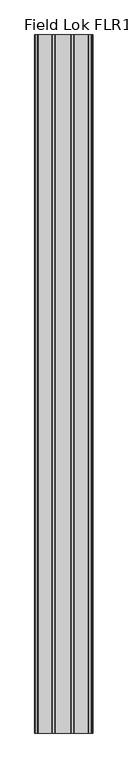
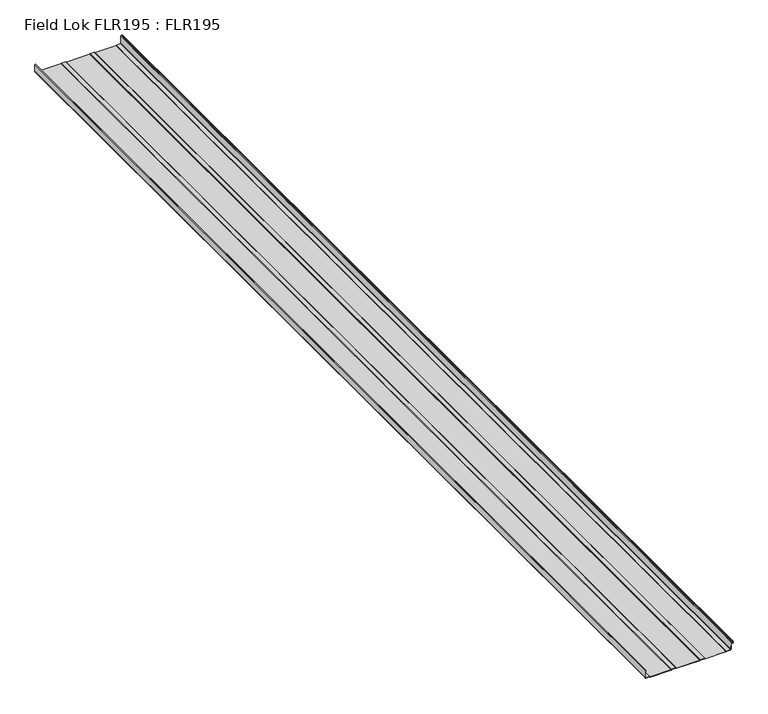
"""IFC4 building model written with IfcOpenShell, lengths in millimetres: proxy geometry, Field Lok FLR195 : FLR195."""

import ifcopenshell
import ifcopenshell.guid

model = None  # the IFC model being written
_history = None  # IfcOwnerHistory: only IFC2X3 demands one
_inside = {}  # id of a spatial element -> (the spatial element, [elements in it])
_under = {}  # id of a project, library or spatial element -> (it, [spatial elements below it])
_declared = {}  # id of a project -> (the project, [libraries it declares])
_typed = {}  # id of a type object -> (the type object, [elements of that type])
_made_of = {}  # id of a material, layer set ... -> (it, [elements and type objects made of it])


def new_model(schema):
    """Start an empty IFC model of exactly this schema.

    Asked for "IFC4X3", IfcOpenShell would pick the latest addendum, in which some entities
    have other attributes; the version numbers below select the first issue.
    IFC2X3 requires an IfcOwnerHistory on every rooted entity: one is made here for all.
    """
    global model, _history
    if schema == "IFC4X3":
        model = ifcopenshell.file(schema_version=(4, 3, 0, 0))
    else:
        model = ifcopenshell.file(schema=schema)
    _inside.clear()
    _under.clear()
    _declared.clear()
    _typed.clear()
    _made_of.clear()
    _history = None
    if model.schema == "IFC2X3":
        org = make("IfcOrganization", Name="unknown")
        user = make(
            "IfcPersonAndOrganization",
            ThePerson=make("IfcPerson", FamilyName="unknown"),
            TheOrganization=org,
        )
        app = make(
            "IfcApplication",
            ApplicationDeveloper=org,
            Version="unknown",
            ApplicationFullName="unknown",
            ApplicationIdentifier="unknown",
        )
        _history = make(
            "IfcOwnerHistory",
            OwningUser=user,
            OwningApplication=app,
            ChangeAction="ADDED",
            CreationDate=0,
        )
    return model


def make(cls, **values):
    """One entity of the class cls with the attributes given. An attribute that is None is left unset."""
    return model.create_entity(
        cls, **{name: value for name, value in values.items() if value is not None}
    )


def rooted(cls, **values):
    """An entity with a GlobalId (a new one), such as an element, a storey or a relation."""
    return make(cls, GlobalId=ifcopenshell.guid.new(), OwnerHistory=_history, **values)


def si_unit(unit_type, name, prefix=None):
    """IfcSIUnit, for example si_unit("LENGTHUNIT", "METRE", prefix="MILLI")."""
    return make("IfcSIUnit", UnitType=unit_type, Prefix=prefix, Name=name)


def assignment(units):
    """IfcUnitAssignment: the units of a project."""
    return None if units is None else make("IfcUnitAssignment", Units=units)


def point(xyz):
    """IfcCartesianPoint."""
    return None if xyz is None else make("IfcCartesianPoint", Coordinates=xyz)


def direction(xyz):
    """IfcDirection."""
    return None if xyz is None else make("IfcDirection", DirectionRatios=xyz)


def frame(location, z_axis=None, x_axis=None):
    """IfcAxis2Placement3D, a coordinate frame: its origin and axes. An axis left out is left unset."""
    return make(
        "IfcAxis2Placement3D",
        Location=point(location),
        Axis=direction(z_axis),
        RefDirection=direction(x_axis),
    )


def frame_2d(location, x_axis=None):
    """IfcAxis2Placement2D, a coordinate frame in the plane: its origin and x axis."""
    return make(
        "IfcAxis2Placement2D", Location=point(location), RefDirection=direction(x_axis)
    )


def origin():
    """The frame at (0, 0, 0) with its axes left unset."""
    return frame((0.0, 0.0, 0.0))


def place(relative_to, where):
    """IfcLocalPlacement: puts the frame where relative to a parent placement (None: the world)."""
    return make(
        "IfcLocalPlacement", PlacementRelTo=relative_to, RelativePlacement=where
    )


def context(
    kind, dimensions, precision=None, world=None, true_north=None, identifier=None
):
    """IfcGeometricRepresentationContext, for example the 3D "Model" context."""
    return make(
        "IfcGeometricRepresentationContext",
        ContextIdentifier=identifier,
        ContextType=kind,
        CoordinateSpaceDimension=dimensions,
        Precision=precision,
        WorldCoordinateSystem=world,
        TrueNorth=true_north,
    )


def project(units=None, contexts=None):
    """IfcProject with its units and contexts."""
    return rooted(
        "IfcProject",
        Name="project",
        RepresentationContexts=contexts,
        UnitsInContext=assignment(units),
    )


def spatial(cls, under=None, at=None, **own):
    """A site, building, storey or space (cls), placed at a placement, below another one or the project."""
    s = rooted(cls, ObjectPlacement=at, **own)
    if under is not None:
        _under.setdefault(under.id(), (under, []))[1].append(s)
    return s


def polyline(points):
    """IfcPolyline through the points."""
    return make("IfcPolyline", Points=[point(p) for p in points])


def circle_curve(where, radius):
    """IfcCircle in the frame where."""
    return make("IfcCircle", Position=where, Radius=radius)


def trimmed(basis, trim1, trim2, sense, master):
    """IfcTrimmedCurve: the piece of a basis curve between two trims."""
    return make(
        "IfcTrimmedCurve",
        BasisCurve=basis,
        Trim1=trim1,
        Trim2=trim2,
        SenseAgreement=sense,
        MasterRepresentation=master,
    )


def segment(curve, same_sense, transition):
    """IfcCompositeCurveSegment."""
    return make(
        "IfcCompositeCurveSegment",
        Transition=transition,
        SameSense=same_sense,
        ParentCurve=curve,
    )


def composite_curve(segments, self_intersect=None):
    """IfcCompositeCurve: segments joined end to end."""
    return make("IfcCompositeCurve", Segments=segments, SelfIntersect=self_intersect)


def outline(outer, holes=None, kind="AREA"):
    """IfcArbitraryClosedProfileDef: a profile drawn as a closed curve; with holes, ...WithVoids."""
    if holes is None:
        return make("IfcArbitraryClosedProfileDef", ProfileType=kind, OuterCurve=outer)
    return make(
        "IfcArbitraryProfileDefWithVoids",
        ProfileType=kind,
        OuterCurve=outer,
        InnerCurves=holes,
    )


def extrude(swept, where, along, depth):
    """IfcExtrudedAreaSolid: the profile swept, set in the frame where, extruded along a direction by depth."""
    return make(
        "IfcExtrudedAreaSolid",
        SweptArea=swept,
        Position=where,
        ExtrudedDirection=direction(along),
        Depth=depth,
    )


def shape(context_of_items, identifier, shape_type, items):
    """IfcShapeRepresentation: the items that make up one representation, for example the "Body"."""
    return make(
        "IfcShapeRepresentation",
        ContextOfItems=context_of_items,
        RepresentationIdentifier=identifier,
        RepresentationType=shape_type,
        Items=items,
    )


def source(mapping_origin, context_of_items, identifier, shape_type, items):
    """IfcRepresentationMap: a shape defined once, which mapped items show again and again."""
    return make(
        "IfcRepresentationMap",
        MappingOrigin=mapping_origin,
        MappedRepresentation=shape(context_of_items, identifier, shape_type, items),
    )


def transform(
    local_origin,
    x_axis=None,
    y_axis=None,
    z_axis=None,
    scale=None,
    scale2=None,
    scale3=None,
    uniform=True,
):
    """IfcCartesianTransformationOperator3D, or its non-uniform kind. x_axis, y_axis, z_axis: its Axis1, 2, 3."""
    if uniform:
        return make(
            "IfcCartesianTransformationOperator3D",
            Axis1=direction(x_axis),
            Axis2=direction(y_axis),
            LocalOrigin=point(local_origin),
            Scale=scale,
            Axis3=direction(z_axis),
        )
    return make(
        "IfcCartesianTransformationOperator3DnonUniform",
        Axis1=direction(x_axis),
        Axis2=direction(y_axis),
        LocalOrigin=point(local_origin),
        Scale=scale,
        Axis3=direction(z_axis),
        Scale2=scale2,
        Scale3=scale3,
    )


def mapped(mapping_source, mapping_target):
    """IfcMappedItem: shows the shape of a source again, moved by a transform."""
    return make(
        "IfcMappedItem", MappingSource=mapping_source, MappingTarget=mapping_target
    )


def made_of(thing, what):
    """Note that an element or type object is made of a material, layer set ...; save() writes the relation."""
    if what is not None:
        _made_of.setdefault(what.id(), (what, []))[1].append(thing)
    return thing


def element(
    cls,
    number,
    at=None,
    inside=None,
    cuts=None,
    type_object=None,
    material=None,
    context=None,
    identifier="Body",
    shape_type=None,
    held_by="IfcProductDefinitionShape",
    body=None,
    shapes=None,
    **own,
):
    """One element of the class cls, such as IfcWall. Its Tag is "e" and its number.

    at: its placement. inside: the storey or other place that contains it. cuts: it is an
    opening in that element (IfcRelVoidsElement). A single representation is given by context,
    identifier, shape_type and body (its items); several are given by shapes. held_by: the class
    of the entity that holds the representations. save() writes the other relations.
    """
    e = rooted(cls, Tag="e%d" % number, ObjectPlacement=at, **own)
    if body is not None:
        shapes = [shape(context, identifier, shape_type, body)]
    if shapes is not None:
        e.Representation = make(held_by, Representations=shapes)
    if inside is not None:
        _inside.setdefault(inside.id(), (inside, []))[1].append(e)
    if cuts is not None:
        rooted(
            "IfcRelVoidsElement", RelatingBuildingElement=cuts, RelatedOpeningElement=e
        )
    if type_object is not None:
        _typed.setdefault(type_object.id(), (type_object, []))[1].append(e)
    return made_of(e, material)


def aggregate(whole, parts):
    """IfcRelAggregates: a whole, such as a stair, and the parts it consists of."""
    return rooted("IfcRelAggregates", RelatingObject=whole, RelatedObjects=parts)


def save(model, path):
    """Write the relations noted so far, then the file.

    IfcRelAggregates (storeys below a building ...), IfcRelContainedInSpatialStructure (elements
    in a storey), IfcRelDefinesByType, IfcRelAssociatesMaterial and IfcRelDeclares: one each for
    every whole, place, type object, material and project.
    """
    for whole, parts in _under.values():
        aggregate(whole, parts)
    for where, things in _inside.values():
        rooted(
            "IfcRelContainedInSpatialStructure",
            RelatedElements=things,
            RelatingStructure=where,
        )
    for kind, things in _typed.values():
        rooted("IfcRelDefinesByType", RelatedObjects=things, RelatingType=kind)
    for what, things in _made_of.values():
        rooted("IfcRelAssociatesMaterial", RelatedObjects=things, RelatingMaterial=what)
    for by, libraries in _declared.values():
        rooted("IfcRelDeclares", RelatingContext=by, RelatedDefinitions=libraries)
    model.write(path)


def field_lok_flr195_flr195_33861746(model_context):
    return source(origin(), model_context, "Body", "SweptSolid", [
        extrude(outline(composite_curve([segment(polyline([(47.6459449, 0.0), (6.5709481, 0.0)]), True, "CONTINUOUS"), segment(trimmed(circle_curve(frame_2d((6.5709481, 3.9425689)), 3.9425689), [point((6.5709481, 0.0))], [point((2.6283793, 3.9425689))], False, "CARTESIAN"), True, "CONTINUOUS"), segment(polyline([(2.6283793, 3.9425689), (2.6283793, 26.2837925), (0.4003139, 28.5118579)]), True, "CONTINUOUS"), segment(trimmed(circle_curve(frame_2d((1.3667572, 29.4783011)), 1.3667572), [point((0.4003139, 28.5118579))], [point((0.0, 29.4783011))], False, "CARTESIAN"), True, "CONTINUOUS"), segment(polyline([(0.0, 29.4783011), (0.0, 149.3112105)]), True, "CONTINUOUS"), segment(trimmed(circle_curve(frame_2d((1.3667572, 149.3112105)), 1.3667572), [point((0.0, 149.3112105))], [point((0.4003139, 150.2776538))], False, "CARTESIAN"), True, "CONTINUOUS"), segment(polyline([(0.4003139, 150.2776538), (2.6283793, 152.5057191), (2.6283793, 178.3412033), (0.4003139, 180.5692686)]), True, "CONTINUOUS"), segment(trimmed(circle_curve(frame_2d((1.3667572, 181.5357119)), 1.3667572), [point((0.4003139, 180.5692686))], [point((0.0, 181.5357119))], False, "CARTESIAN"), True, "CONTINUOUS"), segment(polyline([(0.0, 181.5357119), (0.0, 314.6228862)]), True, "CONTINUOUS"), segment(trimmed(circle_curve(frame_2d((1.3667572, 314.6228862)), 1.3667572), [point((0.0, 314.6228862))], [point((0.4003139, 315.5893295))], False, "CARTESIAN"), True, "CONTINUOUS"), segment(polyline([(0.4003139, 315.5893295), (2.6283793, 317.8173948), (2.6283793, 343.6528789), (0.4003139, 345.8809443)]), True, "CONTINUOUS"), segment(trimmed(circle_curve(frame_2d((1.3667572, 346.8473876)), 1.3667572), [point((0.4003139, 345.8809443))], [point((0.0, 346.8473876))], False, "CARTESIAN"), True, "CONTINUOUS"), segment(polyline([(0.0, 346.8473876), (0.0, 466.5995348)]), True, "CONTINUOUS"), segment(trimmed(circle_curve(frame_2d((1.3667572, 466.5995348)), 1.3667572), [point((0.0, 466.5995348))], [point((0.4003139, 467.5659781))], False, "CARTESIAN"), True, "CONTINUOUS"), segment(polyline([(0.4003139, 467.5659781), (2.6283793, 469.7940435), (2.6283793, 492.2034843)]), True, "CONTINUOUS"), segment(trimmed(circle_curve(frame_2d((6.5709481, 492.2034843)), 3.9425689), [point((2.6283793, 492.2034843))], [point((6.5021408, 496.1454527))], False, "CARTESIAN"), True, "CONTINUOUS"), segment(polyline([(6.5021408, 496.1454527), (49.0292278, 496.8877658)]), True, "CONTINUOUS"), segment(trimmed(circle_curve(frame_2d((48.9929893, 498.9638692)), 2.0764196), [point((49.0292278, 496.8877658))], [point((51.0694089, 498.9638692))], True, "CARTESIAN"), True, "CONTINUOUS"), segment(polyline([(51.0694089, 498.9638692), (51.0694089, 505.1408767)]), True, "CONTINUOUS"), segment(trimmed(circle_curve(frame_2d((48.9929893, 505.1408767)), 2.0764196), [point((51.0694089, 505.1408767))], [point((48.9929893, 507.2172963))], True, "CARTESIAN"), True, "CONTINUOUS"), segment(polyline([(48.9929893, 507.2172963), (41.7649463, 507.2172963)]), True, "CONTINUOUS"), segment(trimmed(circle_curve(frame_2d((41.7649463, 505.4299984)), 1.7872979), [point((41.7649463, 507.2172963))], [point((41.7649463, 503.6427005))], True, "CARTESIAN"), True, "CONTINUOUS"), segment(polyline([(41.7649463, 503.6427005), (47.5473807, 503.6427005), (47.5473807, 502.8016191), (41.7649463, 502.8016191)]), True, "CONTINUOUS"), segment(trimmed(circle_curve(frame_2d((41.7649463, 505.4299984)), 2.6283793), [point((41.7649463, 502.8016191))], [point((41.7649463, 508.0583776))], False, "CARTESIAN"), True, "CONTINUOUS"), segment(polyline([(41.7649463, 508.0583776), (48.9929893, 508.0583776)]), True, "CONTINUOUS"), segment(trimmed(circle_curve(frame_2d((48.9929893, 505.1408767)), 2.917501), [point((48.9929893, 508.0583776))], [point((51.9104902, 505.1408767))], False, "CARTESIAN"), True, "CONTINUOUS"), segment(polyline([(51.9104902, 505.1408767), (51.9104902, 498.9638692)]), True, "CONTINUOUS"), segment(trimmed(circle_curve(frame_2d((48.9929893, 498.9638692)), 2.917501), [point((51.9104902, 498.9638692))], [point((49.0439067, 496.0468125))], False, "CARTESIAN"), True, "CONTINUOUS"), segment(polyline([(49.0439067, 496.0468125), (6.5168197, 495.3044995)]), True, "CONTINUOUS"), segment(trimmed(circle_curve(frame_2d((6.5709481, 492.2034843)), 3.1014875), [point((6.5168197, 495.3044995))], [point((3.4694606, 492.2034843))], True, "CARTESIAN"), True, "CONTINUOUS"), segment(polyline([(3.4694606, 492.2034843), (3.4694606, 470.0117855)]), True, "CONTINUOUS"), segment(trimmed(circle_curve(frame_2d((2.1027034, 470.0117855)), 1.3667572), [point((3.4694606, 470.0117855))], [point((3.0691467, 469.0453422))], False, "CARTESIAN"), True, "CONTINUOUS"), segment(polyline([(3.0691467, 469.0453422), (0.8410814, 466.8172769), (0.8410814, 346.6296455), (3.0691467, 344.4015802)]), True, "CONTINUOUS"), segment(trimmed(circle_curve(frame_2d((2.1027034, 343.4351369)), 1.3667572), [point((3.0691467, 344.4015802))], [point((3.4694606, 343.4351369))], False, "CARTESIAN"), True, "CONTINUOUS"), segment(polyline([(3.4694606, 343.4351369), (3.4694606, 318.0351369)]), True, "CONTINUOUS"), segment(trimmed(circle_curve(frame_2d((2.1027034, 318.0351369)), 1.3667572), [point((3.4694606, 318.0351369))], [point((3.0691467, 317.0686936))], False, "CARTESIAN"), True, "CONTINUOUS"), segment(polyline([(3.0691467, 317.0686936), (0.8410814, 314.8406282), (0.8410814, 181.3179698), (3.0691467, 179.0899045)]), True, "CONTINUOUS"), segment(trimmed(circle_curve(frame_2d((2.1027034, 178.1234612)), 1.3667572), [point((3.0691467, 179.0899045))], [point((3.4694606, 178.1234612))], False, "CARTESIAN"), True, "CONTINUOUS"), segment(polyline([(3.4694606, 178.1234612), (3.4694606, 152.7234612)]), True, "CONTINUOUS"), segment(trimmed(circle_curve(frame_2d((2.1027034, 152.7234612)), 1.3667572), [point((3.4694606, 152.7234612))], [point((3.0691467, 151.7570179))], False, "CARTESIAN"), True, "CONTINUOUS"), segment(polyline([(3.0691467, 151.7570179), (0.8410814, 149.5289526), (0.8410814, 29.2605591), (3.0691467, 27.0324937)]), True, "CONTINUOUS"), segment(trimmed(circle_curve(frame_2d((2.1027034, 26.0660505)), 1.3667572), [point((3.0691467, 27.0324937))], [point((3.4694606, 26.0660505))], False, "CARTESIAN"), True, "CONTINUOUS"), segment(polyline([(3.4694606, 26.0660505), (3.4694606, 3.9425689)]), True, "CONTINUOUS"), segment(trimmed(circle_curve(frame_2d((6.5709481, 3.9425689)), 3.1014875), [point((3.4694606, 3.9425689))], [point((6.5709481, 0.8410814))], True, "CARTESIAN"), True, "CONTINUOUS"), segment(polyline([(6.5709481, 0.8410814), (47.6459449, 0.8410814)]), True, "CONTINUOUS"), segment(trimmed(circle_curve(frame_2d((47.6459449, 2.0764196)), 1.2353382), [point((47.6459449, 0.8410814))], [point((47.6459449, 3.3117579))], True, "CARTESIAN"), True, "CONTINUOUS"), segment(polyline([(47.6459449, 3.3117579), (41.9160781, 3.3117579), (41.9160781, 4.1528392), (47.6459449, 4.1528392)]), True, "CONTINUOUS"), segment(trimmed(circle_curve(frame_2d((47.6459449, 2.0764196)), 2.0764196), [point((47.6459449, 4.1528392))], [point((47.6459449, 0.0))], False, "CARTESIAN"), True, "CONTINUOUS")], self_intersect=False)), frame((0.0, -4572.0, 0.0), z_axis=(0.0, 1.0, 0.0), x_axis=(0.0, 0.0, 1.0)), (0.0, 0.0, 1.0), 6096.0),
    ])


if __name__ == "__main__":
    model = new_model("IFC4")
    model_context = context("Model", 3, world=origin())
    ifc_project = project(units=[si_unit("LENGTHUNIT", "METRE", prefix="MILLI")], contexts=[model_context])
    site = spatial("IfcSite", under=ifc_project)
    building = spatial("IfcBuilding", under=site)
    placement = place(None, origin())
    field_lok_flr195_flr195_shape = field_lok_flr195_flr195_33861746(model_context)
    element("IfcBuildingElementProxy", 1, Name="Field Lok FLR195 : FLR195", ObjectType="Field Lok FLR195 : FLR195", at=placement, inside=building, context=model_context, shape_type="MappedRepresentation", body=[
        mapped(field_lok_flr195_flr195_shape, transform((0.0, 0.0, 0.0), x_axis=(1.0, 0.0, 0.0), y_axis=(0.0, 1.0, 0.0), z_axis=(0.0, 0.0, 1.0))),
    ])
    save(model, "model.ifc")
